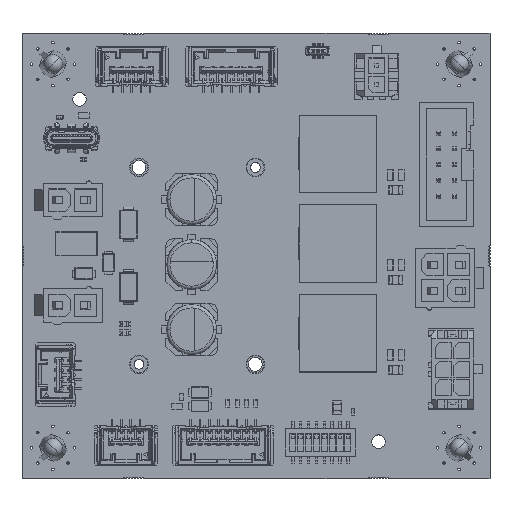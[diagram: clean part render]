
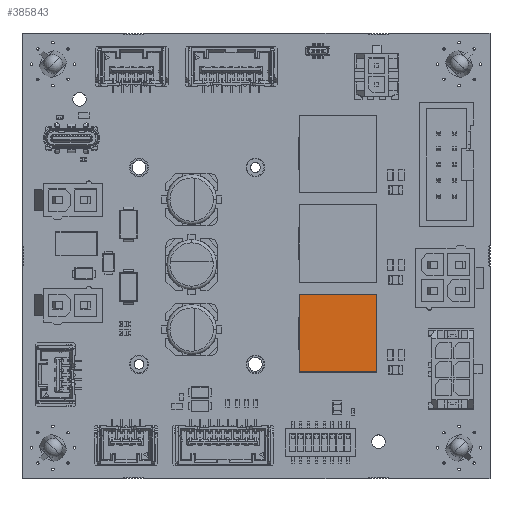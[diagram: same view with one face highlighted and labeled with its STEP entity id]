
A CAD part, top view. The second image highlights one B-rep face of the part: STEP entity #385843.
In plain terms, the highlighted planar face has unit normal (0, 0, 1).
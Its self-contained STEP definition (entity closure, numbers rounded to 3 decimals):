
#127616=DIRECTION('',(0.,1.,0.));
#127617=VECTOR('',#127616,12.5);
#127618=CARTESIAN_POINT('',(44.75,17.25,10.2));
#127619=LINE('',#127618,#127617);
#127624=DIRECTION('',(1.,0.,0.));
#127625=VECTOR('',#127624,12.5);
#127626=CARTESIAN_POINT('',(44.75,29.75,10.2));
#127627=LINE('',#127626,#127625);
#127632=DIRECTION('',(0.,-1.,0.));
#127633=VECTOR('',#127632,12.5);
#127634=CARTESIAN_POINT('',(57.25,29.75,10.2));
#127635=LINE('',#127634,#127633);
#127684=DIRECTION('',(-1.,0.,0.));
#127685=VECTOR('',#127684,12.5);
#127686=CARTESIAN_POINT('',(57.25,17.25,10.2));
#127687=LINE('',#127686,#127685);
#163215=CARTESIAN_POINT('',(57.25,29.75,10.2));
#163217=VERTEX_POINT('',#163215);
#163218=CARTESIAN_POINT('',(57.25,17.25,10.2));
#163219=VERTEX_POINT('',#163218);
#163224=CARTESIAN_POINT('',(44.75,29.75,10.2));
#163225=VERTEX_POINT('',#163224);
#163227=CARTESIAN_POINT('',(44.75,17.25,10.2));
#163229=VERTEX_POINT('',#163227);
#385832=CARTESIAN_POINT('',(51.,23.5,10.2));
#385833=DIRECTION('',(0.,0.,-1.));
#385834=DIRECTION('',(0.,1.,0.));
#385835=AXIS2_PLACEMENT_3D('',#385832,#385833,#385834);
#385836=PLANE('',#385835);
#385837=ORIENTED_EDGE('',*,*,#385729,.T.);
#385838=ORIENTED_EDGE('',*,*,#385819,.T.);
#385839=ORIENTED_EDGE('',*,*,#385683,.T.);
#385840=ORIENTED_EDGE('',*,*,#385706,.T.);
#385841=EDGE_LOOP('',(#385837,#385838,#385839,#385840));
#385842=FACE_OUTER_BOUND('',#385841,.F.);
#385843=ADVANCED_FACE('',(#385842),#385836,.F.);
#385683=EDGE_CURVE('',#163229,#163225,#127619,.T.);
#385706=EDGE_CURVE('',#163225,#163217,#127627,.T.);
#385729=EDGE_CURVE('',#163217,#163219,#127635,.T.);
#385819=EDGE_CURVE('',#163219,#163229,#127687,.T.);
